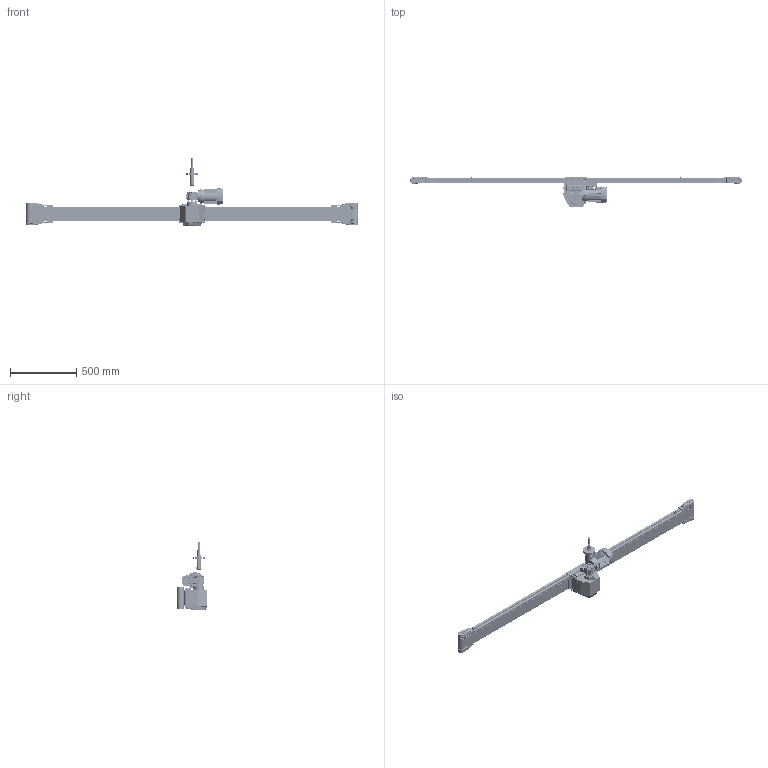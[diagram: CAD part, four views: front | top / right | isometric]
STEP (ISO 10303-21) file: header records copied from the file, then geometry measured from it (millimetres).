
FILE_DESCRIPTION (( 'STEP AP203' ), '1' );
FILE_NAME ('NASTRO_RETTILINEO_TAPPETO.step', '2026-05-04T14:13:50', ( 'Utente Windows' ), ( '' ), 'SwSTEP 2.0', 'SolidWorks 2024', '' );
FILE_SCHEMA (( 'CONFIG_CONTROL_DESIGN' ));
Length unit declared in the file: millimetre
Products named in the file (59): NASTRO_RETTILINEO_TAPPETO; DADI ESAGONALI NORMALI UNI 5588_M6 UNI 5588; 084.802.020; VITE_RONDELLA_M8X20; VITI TE UNI 5739_M8x12 UNI 5739; VITI TE UNI 5739_M6x50 UNI 5739; VITI TSEI UNI 5933_M5x12 UNI 5933; 084.302.017; VITI TSEI UNI 5933_M6x12 UNI 5933; RONDELLE UNI 6592_6.4x12.5 UNI 6592; 084.802.071; 084.802.017_084.802.017; 084.810.003; BLOCCO_PERNO_50_RINVIO; TAPPETO_CENTRALE; 084.811.004; 084.302.000 DADI ALUSIC 13x13_084.302.015; PERNO_TENSIONAMENTO_50-95_CENTRALE; 084.814.001-1; BLOCCO_PERNO_95_RINVIO; 084.301.000 VITI ALUSIC_084.301.003; VITI TSEI UNI 5933_M8x20 UNI 5933; 084.301.000 VITI ALUSIC_084.301.009; VITI TSEI UNI 5933_M8x16 UNI 5933; LAMIERA_STANDARD; BLOCCO_TRAINO_50-95_CENTRALE_30; 084.802.064; RULLO_95_Default<A macchina>; 084.802.070; 084.807.004_084.807.004; TELAIO_50_STANDARD_Default<A macchina>; TRAVERSA_50-95_CENTRALE_Default<A macchina>; CHIAVETTE_A 8x7x20 UNI 6604-69; CHIAVETTE_A 5x5x50 UNI 6604-69; VITI TE UNI 5739_M6x12 UNI 5739; 30UNI7435; VITI TE UNI 5739_M6x16 UNI 5739; 084.802.004-1; BLOCCO_RINVIO_50_CORTA; RONDELLE FASCIA LARGA UNI 6593_5.4x20 UNI 6593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
Assembly tree (147 placements, depth 3):
  NASTRO_RETTILINEO_TAPPETO
    TAPPETO_CENTRALE
    TELAIO_50_STANDARD_Default<A macchina>
    LAMIERA_STANDARD  x2
    RULLO_50_Default<A macchina>  x2
    BLOCCO_PERNO_50_RINVIO  x4
      084.811.004
      084.810.001
    BLOCCO_RINVIO_50_CORTA  x4
      084.807.004_084.807.004
      084.802.017_084.802.017
      084.802.008
      084.301.000 VITI ALUSIC_084.301.003
      084.302.000 DADI ALUSIC 13x13_084.302.004
      VITI TCEI UNI 5931_M4x10 UNI 5931
      084.802.071
    RULLO_95_Default<A macchina>
    BLOCCO_TRAINO_50-95_CENTRALE_30
      084.802.009
      084.802.021
      084.802.004-1  x2
      084.802.003
      VITI TSEI UNI 5933_M8x20 UNI 5933  x4
      084.302.017
      VITI TE UNI 5739_M6x16 UNI 5739  x6
      RONDELLE UNI 6592_6.4x12.5 UNI 6592  x2
      DADI ESAGONALI NORMALI UNI 5588_M6 UNI 5588  x2
      VITI TE UNI 5739_M6x50 UNI 5739  x2
      VITI TSEI UNI 5933_M6x12 UNI 5933  x6
      VITI TSEI UNI 5933_M8x16 UNI 5933  x3
      084.802.070
    BLOCCO_TRAINO_50-95_CENTRALE
      084.802.004-1  x2
      084.802.020
      084.802.003
      VITI TSEI UNI 5933_M8x20 UNI 5933  x4
      VITI TSEI UNI 5933_M6x12 UNI 5933  x6
      RONDELLE UNI 6592_8.4x17 UNI 6592  x2
      VITI TE UNI 5739_M8x12 UNI 5739  x2
      VITI TE UNI 5739_M6x16 UNI 5739  x2
      084.302.017
      RONDELLE UNI 6592_6.4x12.5 UNI 6592  x2
      VITI TE UNI 5739_M6x50 UNI 5739  x2
      DADI ESAGONALI NORMALI UNI 5588_M6 UNI 5588  x2
      084.802.064
    BLOCCO_PERNO_50_CENTRALE_30
      084.814.001-1
      084.810.003
      RONDELLE FASCIA LARGA UNI 6593_5.4x20 UNI 6593
      084.301.000 VITI ALUSIC_084.301.009
      CHIAVETTE_A 5x5x50 UNI 6604-69
      CHIAVETTE_A 8x7x20 UNI 6604-69
      30UNI7435
    BLOCCO_PERNO_95_RINVIO
      084.812.003
      084.810.003
      30UNI7435
    CARTER_50-95_CENTRALE
    RULLO_TENSIONAMENTO_50-95_CENTRALE  x2
    PERNO_TENSIONAMENTO_50-95_CENTRALE  x2
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Bounding box: 2504 x 227.5 x 518.3 mm (x, y, z)
Volume: 7429952.8 mm3; surface area: 5670919.3 mm2
Topology: 246 solids, 250 shells, 10630 faces, 27305 edges, 17407 vertices
Faces by surface type: plane 4715, cylinder 3208, cone 1127, bspline 1055, torus 446, sphere 79
Entity records: 230080 total; most frequent: CARTESIAN_POINT 85723, ORIENTED_EDGE 30546, DIRECTION 25667, EDGE_CURVE 15273, VERTEX_POINT 9792, AXIS2_PLACEMENT_3D 9270, VECTOR 7127, LINE 7127
